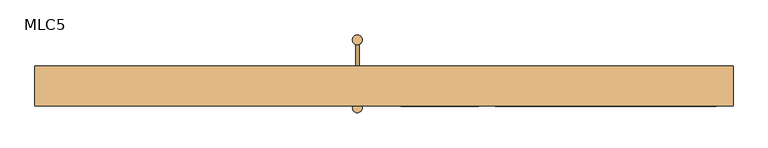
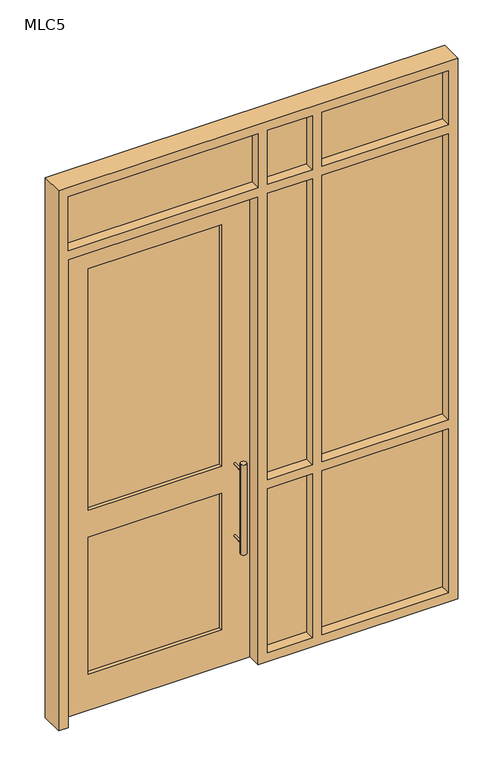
"""IFC4 building model written with IfcOpenShell, lengths in millimetres: door geometry, 单嵌板连窗玻璃门 1 : MLC5."""

from ifc_helpers import new_model, si_unit, point, frame, frame_2d, origin, place, context, project, spatial, polyline, circle_curve, trimmed, segment, composite_curve, outline, extrude, source, transform, mapped, element, save


def mlc5_b93d954c(model_context):
    return source(origin(), model_context, "Body", "SweptSolid", [
        extrude(outline(composite_curve([segment(trimmed(circle_curve(frame_2d((-80.0, 130.0)), 15.0), [point((-95.0, 130.0))], [point((-65.0, 130.0))], False, "CARTESIAN"), True, "CONTINUOUS"), segment(trimmed(circle_curve(frame_2d((-80.0, 130.0)), 15.0), [point((-65.0, 130.0))], [point((-95.0, 130.0))], False, "CARTESIAN"), True, "CONTINUOUS")], self_intersect=False)), frame((0.0, 0.0, 650.0), z_axis=(0.0, 0.0, 1.0), x_axis=(1.0, 0.0, 0.0)), (0.0, 0.0, 1.0), 500.0),
        extrude(outline(composite_curve([segment(trimmed(circle_curve(frame_2d((1100.0, -80.0)), 5.0), [point((1100.0, -85.0))], [point((1100.0, -75.0))], False, "CARTESIAN"), True, "CONTINUOUS"), segment(trimmed(circle_curve(frame_2d((1100.0, -80.0)), 5.0), [point((1100.0, -75.0))], [point((1100.0, -85.0))], False, "CARTESIAN"), True, "CONTINUOUS")], self_intersect=False)), frame((0.0, 50.0, 0.0), z_axis=(0.0, 1.0, 0.0), x_axis=(0.0, 0.0, 1.0)), (0.0, 0.0, 1.0), 80.0),
        extrude(outline(composite_curve([segment(trimmed(circle_curve(frame_2d((700.0, -80.0)), 5.0), [point((700.0, -85.0))], [point((700.0, -75.0))], False, "CARTESIAN"), True, "CONTINUOUS"), segment(trimmed(circle_curve(frame_2d((700.0, -80.0)), 5.0), [point((700.0, -75.0))], [point((700.0, -85.0))], False, "CARTESIAN"), True, "CONTINUOUS")], self_intersect=False)), frame((0.0, 50.0, 0.0), z_axis=(0.0, 1.0, 0.0), x_axis=(0.0, 0.0, 1.0)), (0.0, 0.0, 1.0), 80.0),
        extrude(outline(composite_curve([segment(trimmed(circle_curve(frame_2d((1100.0, -80.0)), 5.0), [point((1100.0, -85.0))], [point((1100.0, -75.0))], False, "CARTESIAN"), True, "CONTINUOUS"), segment(trimmed(circle_curve(frame_2d((1100.0, -80.0)), 5.0), [point((1100.0, -75.0))], [point((1100.0, -85.0))], False, "CARTESIAN"), True, "CONTINUOUS")], self_intersect=False)), frame((0.0, -75.0, 0.0), z_axis=(0.0, 1.0, 0.0), x_axis=(0.0, 0.0, 1.0)), (0.0, 0.0, 1.0), 80.0),
        extrude(outline(composite_curve([segment(trimmed(circle_curve(frame_2d((700.0, -80.0)), 5.0), [point((700.0, -85.0))], [point((700.0, -75.0))], False, "CARTESIAN"), True, "CONTINUOUS"), segment(trimmed(circle_curve(frame_2d((700.0, -80.0)), 5.0), [point((700.0, -75.0))], [point((700.0, -85.0))], False, "CARTESIAN"), True, "CONTINUOUS")], self_intersect=False)), frame((0.0, -75.0, 0.0), z_axis=(0.0, 1.0, 0.0), x_axis=(0.0, 0.0, 1.0)), (0.0, 0.0, 1.0), 80.0),
        extrude(outline(composite_curve([segment(trimmed(circle_curve(frame_2d((-80.0, -75.0)), 15.0), [point((-95.0, -75.0))], [point((-65.0, -75.0))], False, "CARTESIAN"), True, "CONTINUOUS"), segment(trimmed(circle_curve(frame_2d((-80.0, -75.0)), 15.0), [point((-65.0, -75.0))], [point((-95.0, -75.0))], False, "CARTESIAN"), True, "CONTINUOUS")], self_intersect=False)), frame((0.0, 0.0, 650.0), z_axis=(0.0, 0.0, 1.0), x_axis=(1.0, 0.0, 0.0)), (0.0, 0.0, 1.0), 500.0),
        extrude(outline(polyline([(-150.0, 24.325), (-850.0, 24.325), (-850.0, 30.675), (-150.0, 30.675), (-150.0, 24.325)])), frame((0.0, 0.0, 200.0), z_axis=(0.0, 0.0, 1.0), x_axis=(1.0, 0.0, 0.0)), (0.0, 0.0, 1.0), 760.0),
        extrude(outline(polyline([(-150.0, 24.325), (-850.0, 24.325), (-850.0, 30.675), (-150.0, 30.675), (-150.0, 24.325)])), frame((0.0, 0.0, 1110.0), z_axis=(0.0, 0.0, 1.0), x_axis=(1.0, 0.0, 0.0)), (0.0, 0.0, 1.0), 1340.0),
        extrude(outline(polyline([(2600.0, -1000.0), (0.0, -1000.0), (0.0, 0.0), (2600.0, 0.0), (2600.0, -1000.0)]), holes=[polyline([(2450.0, -850.0), (2450.0, -150.0), (1110.0, -150.0), (1110.0, -850.0), (2450.0, -850.0)]), polyline([(960.0, -150.0), (200.0, -150.0), (200.0, -850.0), (960.0, -850.0), (960.0, -150.0)])]), frame((0.0, 5.0, 0.0), z_axis=(0.0, 1.0, 0.0), x_axis=(0.0, 0.0, 1.0)), (0.0, 0.0, 1.0), 45.0),
        extrude(outline(polyline([(1000.0, -16.4), (334.8, -16.4), (334.8, -3.6), (1000.0, -3.6), (1000.0, -16.4)])), frame((0.0, 0.0, 1010.0), z_axis=(0.0, 0.0, 1.0), x_axis=(1.0, 0.0, 0.0)), (0.0, 0.0, 1.0), 1590.0),
        extrude(outline(polyline([(1000.0, -16.4), (334.8, -16.4), (334.8, -3.6), (1000.0, -3.6), (1000.0, -16.4)])), frame((0.0, 0.0, 50.0), z_axis=(0.0, 0.0, 1.0), x_axis=(1.0, 0.0, 0.0)), (0.0, 0.0, 1.0), 910.0),
        extrude(outline(polyline([(284.8, -16.4), (50.0, -16.4), (50.0, -3.6), (284.8, -3.6), (284.8, -16.4)])), frame((0.0, 0.0, 50.0), z_axis=(0.0, 0.0, 1.0), x_axis=(1.0, 0.0, 0.0)), (0.0, 0.0, 1.0), 910.0),
        extrude(outline(polyline([(284.8, -16.4), (50.0, -16.4), (50.0, -3.6), (284.8, -3.6), (284.8, -16.4)])), frame((0.0, 0.0, 1010.0), z_axis=(0.0, 0.0, 1.0), x_axis=(1.0, 0.0, 0.0)), (0.0, 0.0, 1.0), 1590.0),
        extrude(outline(polyline([(284.8, -16.4), (50.0, -16.4), (50.0, -3.6), (284.8, -3.6), (284.8, -16.4)])), frame((0.0, 0.0, 2650.0), z_axis=(0.0, 0.0, 1.0), x_axis=(1.0, 0.0, 0.0)), (0.0, 0.0, 1.0), 300.0),
        extrude(outline(polyline([(1000.0, -16.4), (334.8, -16.4), (334.8, -3.6), (1000.0, -3.6), (1000.0, -16.4)])), frame((0.0, 0.0, 2650.0), z_axis=(0.0, 0.0, 1.0), x_axis=(1.0, 0.0, 0.0)), (0.0, 0.0, 1.0), 300.0),
        extrude(outline(polyline([(0.0, -16.4), (-1000.0, -16.4), (-1000.0, -3.6), (0.0, -3.6), (0.0, -16.4)])), frame((0.0, 0.0, 2650.0), z_axis=(0.0, 0.0, 1.0), x_axis=(1.0, 0.0, 0.0)), (0.0, 0.0, 1.0), 300.0),
        extrude(outline(polyline([(0.0, 1050.0), (3000.0, 1050.0), (3000.0, -1050.0), (0.0, -1050.0), (0.0, -1000.0), (2600.0, -1000.0), (2600.0, 0.0), (0.0, 0.0), (0.0, 1050.0)]), holes=[polyline([(960.0, 1000.0), (50.0, 1000.0), (50.0, 334.8), (960.0, 334.8), (960.0, 1000.0)]), polyline([(2600.0, 334.8), (2600.0, 1000.0), (1010.0, 1000.0), (1010.0, 334.8), (2600.0, 334.8)]), polyline([(50.0, 284.8), (50.0, 50.0), (960.0, 50.0), (960.0, 284.8), (50.0, 284.8)]), polyline([(2650.0, 334.8), (2950.0, 334.8), (2950.0, 1000.0), (2650.0, 1000.0), (2650.0, 334.8)]), polyline([(2950.0, 284.8), (2650.0, 284.8), (2650.0, 50.0), (2950.0, 50.0), (2950.0, 284.8)]), polyline([(2650.0, -1000.0), (2950.0, -1000.0), (2950.0, 0.0), (2650.0, 0.0), (2650.0, -1000.0)]), polyline([(2600.0, 50.0), (2600.0, 284.8), (1010.0, 284.8), (1010.0, 50.0), (2600.0, 50.0)])]), frame((0.0, -70.0, 0.0), z_axis=(0.0, 1.0, 0.0), x_axis=(0.0, 0.0, 1.0)), (0.0, 0.0, 1.0), 120.0),
    ])


if __name__ == "__main__":
    model = new_model("IFC4")
    model_context = context("Model", 3, world=origin())
    ifc_project = project(units=[si_unit("LENGTHUNIT", "METRE", prefix="MILLI")], contexts=[model_context])
    site = spatial("IfcSite", under=ifc_project)
    building = spatial("IfcBuilding", under=site)
    placement = place(None, origin())
    mlc5_shape = mlc5_b93d954c(model_context)
    element("IfcDoor", 1, ObjectType="单嵌板连窗玻璃门 1 : MLC5", at=placement, inside=building, context=model_context, shape_type="MappedRepresentation", body=[
        mapped(mlc5_shape, transform((0.0, 0.0, 0.0), x_axis=(1.0, 0.0, 0.0), y_axis=(0.0, 1.0, 0.0), z_axis=(0.0, 0.0, 1.0))),
    ])
    save(model, "model.ifc")
